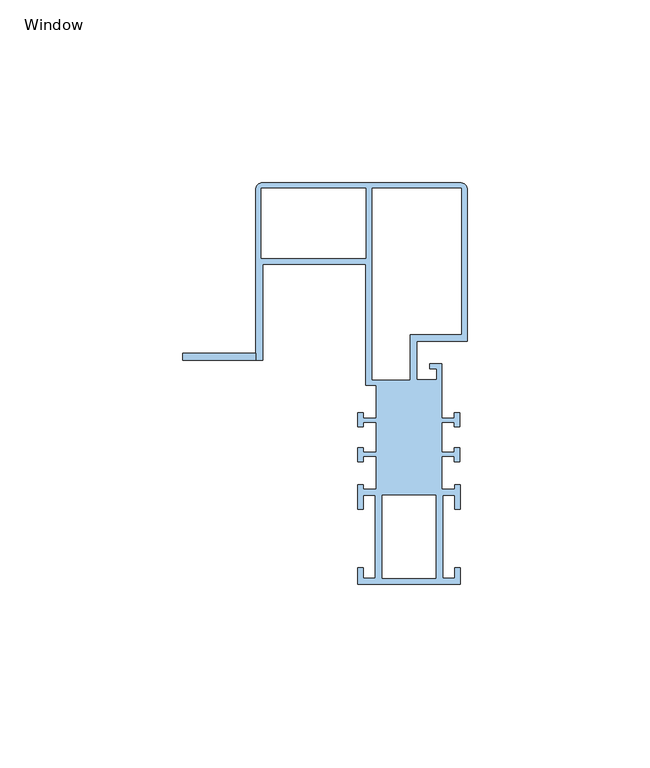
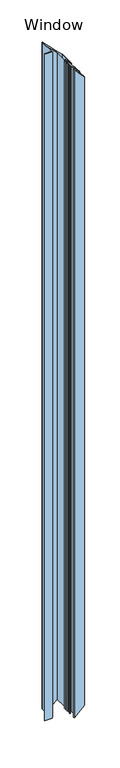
"""IFC4 building model written with IfcOpenShell, lengths in millimetres: window geometry, QO-H-QBISS_Window Module : Window."""

from ifc_helpers import new_model, si_unit, frame, origin, place, context, project, spatial, ellipse_curve, source, transform, mapped, element, save
from ifc_brep_helpers import plane_surface, cylinder_surface, advanced_brep


def window_884a3d52(model_context):
    return source(origin(), model_context, "Body", "AdvancedBrep", [
        advanced_brep(
        [(-1006.7490836, -48.7, -4.0), (-1006.7490836, -46.7, -4.0), (-986.7500002, -46.7, -4.0), (-986.7500002, -48.7, -4.0), (-1006.7490836, -48.7, 1973.0), (-1006.7490836, -46.7, 1973.0), (-986.7500002, -46.7, 1973.0), (-986.7500002, -2.0, -4.0), (-984.7500002, 0.0, -2.0), (-930.7500002, 0.0, 52.0), (-928.7500002, -2.0, 54.0), (-928.7500002, -43.5, 54.0), (-942.5500002, -43.5, 40.2), (-942.5500002, -54.0, 40.2), (-937.1500002, -54.0, 45.6), (-937.1500002, -51.0, 45.6), (-939.0500002, -51.0, 43.7), (-939.0500002, -49.6, 43.7), (-935.7500002, -49.6, 47.0), (-935.7500002, -64.5037405, 47.0), (-932.3013135, -64.5037405, 50.4486867), (-932.3013135, -63.0037405, 50.4486867), (-930.8013135, -63.0037405, 51.9486867), (-930.8013135, -66.9037405, 51.9486867), (-932.3013135, -66.9037405, 50.4486867), (-932.3013135, -65.7037405, 50.4486867), (-935.8013135, -65.7037405, 46.9486867), (-935.8013135, -73.8037405, 46.9486867), (-932.3013135, -73.8037405, 50.4486867), (-932.3013135, -72.6037405, 50.4486867), (-930.8013135, -72.6037405, 51.9486867), (-930.8013135, -76.5037405, 51.9486867), (-932.3013135, -76.5037405, 50.4486867), (-932.3013135, -75.0037405, 50.4486867), (-935.8013141, -75.0037405, 46.9486861), (-935.8013141, -84.0037561, 46.9486861), (-932.2518297, -84.0037561, 50.4981705), (-932.2518297, -82.8037561, 50.4981705), (-930.7518297, -82.8037561, 51.9981705), (-930.7518297, -89.5037561, 51.9981705), (-932.2518297, -89.5037561, 50.4981705), (-932.2518297, -85.7037561, 50.4981705), (-935.5518297, -85.7037561, 47.1981705), (-935.5518297, -108.3037561, 47.1981705), (-932.2518297, -108.3037561, 50.4981705), (-932.2518297, -105.5037561, 50.4981705), (-930.7518297, -105.5037561, 51.9981705), (-930.7518297, -110.0037561, 51.9981705), (-958.7518297, -110.0037561, 23.9981705), (-958.7518297, -105.5037561, 23.9981705), (-957.2518297, -105.5037561, 25.4981705), (-957.2518297, -108.3037561, 25.4981705), (-953.9518297, -108.3037561, 28.7981705), (-953.9518297, -85.7037561, 28.7981705), (-957.2518297, -85.7037561, 25.4981705), (-957.2518297, -89.5037561, 25.4981705), (-958.7518297, -89.5037561, 23.9981705), (-958.7518297, -82.8037561, 23.9981705), (-957.2518297, -82.8037561, 25.4981705), (-957.2518297, -84.0037561, 25.4981705), (-953.7023453, -84.0037561, 29.0476548), (-953.7023453, -75.0037405, 29.0476548), (-957.2023459, -75.0037405, 25.5476542), (-957.2023459, -76.5037405, 25.5476542), (-958.7023459, -76.5037405, 24.0476542), (-958.7023459, -72.6037405, 24.0476542), (-957.2023459, -72.6037405, 25.5476542), (-957.2023459, -73.8037405, 25.5476542), (-953.7023459, -73.8037405, 29.0476542), (-953.7023459, -65.7037405, 29.0476542), (-957.2023459, -65.7037405, 25.5476542), (-957.2023459, -66.9037405, 25.5476542), (-958.7023459, -66.9037405, 24.0476542), (-958.7023459, -63.0037405, 24.0476542), (-957.2023459, -63.0037405, 25.5476542), (-957.2023459, -64.5037405, 25.5476542), (-953.7023461, -64.5037405, 29.0476541), (-953.7023461, -55.4999986, 29.0476541), (-956.5500002, -55.4999986, 26.2), (-956.5500002, -22.4, 26.2), (-984.7490836, -22.4, -1.9990835), (-984.7490836, -48.7, -1.9990835), (-956.5500002, -20.7, 26.2), (-956.5500002, -1.5, 26.2), (-985.2500002, -1.5, -2.5), (-985.2500002, -20.7, -2.5), (-944.5500002, -54.0, 38.2), (-944.5500002, -41.5, 38.2), (-930.4500002, -41.5, 52.3), (-930.4500002, -1.5, 52.3), (-954.8500002, -1.5, 27.9), (-954.8500002, -54.0, 27.9), (-952.0518297, -108.3037561, 30.6981705), (-937.4518297, -108.3037561, 45.2981705), (-937.4518297, -85.7037561, 45.2981705), (-952.0518297, -85.7037561, 30.6981705), (-984.7490836, -48.7, 1970.9990835), (-986.7500002, -48.7, 1973.0), (-953.7023453, -84.0037561, 1939.9523452), (-953.7023453, -75.0037405, 1939.9523452), (-957.2023459, -75.0037405, 1943.4523458), (-957.2518297, -84.0037561, 1943.5018295), (-957.2518297, -82.8037561, 1943.5018295), (-958.7518297, -82.8037561, 1945.0018295), (-958.7518297, -89.5037561, 1945.0018295), (-957.2518297, -89.5037561, 1943.5018295), (-957.2518297, -85.7037561, 1943.5018295), (-953.9518297, -85.7037561, 1940.2018295), (-953.9518297, -108.3037561, 1940.2018295), (-957.2518297, -108.3037561, 1943.5018295), (-957.2518297, -105.5037561, 1943.5018295), (-958.7518297, -105.5037561, 1945.0018295), (-958.7518297, -110.0037561, 1945.0018295), (-930.7518297, -110.0037561, 1917.0018295), (-930.7518297, -105.5037561, 1917.0018295), (-932.2518297, -105.5037561, 1918.5018295), (-932.2518297, -108.3037561, 1918.5018295), (-935.5518297, -108.3037561, 1921.8018295), (-935.5518297, -85.7037561, 1921.8018295), (-932.2518297, -85.7037561, 1918.5018295), (-932.2518297, -89.5037561, 1918.5018295), (-930.7518297, -89.5037561, 1917.0018295), (-930.7518297, -82.8037561, 1917.0018295), (-932.2518297, -82.8037561, 1918.5018295), (-932.2518297, -84.0037561, 1918.5018295), (-935.8013141, -84.0037561, 1922.0513139), (-935.8013141, -75.0037405, 1922.0513139), (-932.3013135, -75.0037405, 1918.5513133), (-932.3013135, -76.5037405, 1918.5513133), (-930.8013135, -76.5037405, 1917.0513133), (-930.8013135, -72.6037405, 1917.0513133), (-932.3013135, -72.6037405, 1918.5513133), (-932.3013135, -73.8037405, 1918.5513133), (-935.8013135, -73.8037405, 1922.0513133), (-935.8013135, -65.7037405, 1922.0513133), (-932.3013135, -65.7037405, 1918.5513133), (-932.3013135, -66.9037405, 1918.5513133), (-930.8013135, -66.9037405, 1917.0513133), (-930.8013135, -63.0037405, 1917.0513133), (-932.3013135, -63.0037405, 1918.5513133), (-932.3013135, -64.5037405, 1918.5513133), (-935.7500002, -64.5037405, 1922.0), (-935.7500002, -49.6, 1922.0), (-939.0500002, -49.6, 1925.3), (-939.0500002, -51.0, 1925.3), (-937.1500002, -51.0, 1923.4), (-937.1500002, -54.0, 1923.4), (-942.5500002, -54.0, 1928.8), (-942.5500002, -43.5, 1928.8), (-928.7500002, -43.5, 1915.0), (-928.7500002, -2.0, 1915.0), (-930.7500002, 0.0, 1917.0), (-984.7500002, 0.0, 1971.0), (-986.7500002, -2.0, 1973.0), (-984.7490836, -22.4, 1970.9990835), (-956.5500002, -22.4, 1942.8), (-956.5500002, -55.4999986, 1942.8), (-953.7023461, -55.4999986, 1939.9523459), (-953.7023461, -64.5037405, 1939.9523459), (-957.2023459, -64.5037405, 1943.4523458), (-957.2023459, -63.0037405, 1943.4523458), (-958.7023459, -63.0037405, 1944.9523458), (-958.7023459, -66.9037405, 1944.9523458), (-957.2023459, -66.9037405, 1943.4523458), (-957.2023459, -65.7037405, 1943.4523458), (-953.7023459, -65.7037405, 1939.9523458), (-953.7023459, -73.8037405, 1939.9523458), (-957.2023459, -73.8037405, 1943.4523458), (-957.2023459, -72.6037405, 1943.4523458), (-958.7023459, -72.6037405, 1944.9523458), (-958.7023459, -76.5037405, 1944.9523458), (-957.2023459, -76.5037405, 1943.4523458), (-956.5500002, -20.7, 1942.8), (-956.5500002, -1.5, 1942.8), (-985.2500002, -1.5, 1971.5), (-985.2500002, -20.7, 1971.5), (-944.5500002, -54.0, 1930.8), (-944.5500002, -41.5, 1930.8), (-930.4500002, -41.5, 1916.7), (-954.8500002, -54.0, 1941.1), (-954.8500002, -1.5, 1941.1), (-930.4500002, -1.5, 1916.7), (-952.0518297, -108.3037561, 1938.3018295), (-937.4518297, -108.3037561, 1923.7018295), (-937.4518297, -85.7037561, 1923.7018295), (-952.0518297, -85.7037561, 1938.3018295)],
        [
            (0, 1),
            (1, 2),
            (2, 3),
            (3, 0),
            (4, 5),
            (5, 1),
            (0, 4),
            (5, 6),
            (6, 2),
            (2, 7),
            (7, 8, ellipse_curve(frame((-984.7500002, -2.0, -2.0), z_axis=(0.7071067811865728, 0.0, -0.7071067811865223), x_axis=(0.7071067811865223, 0.0, 0.7071067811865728)), 2.8284271, 2.0)),
            (8, 9),
            (9, 10, ellipse_curve(frame((-930.7500002, -2.0, 52.0), z_axis=(0.7071067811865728, 0.0, -0.7071067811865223), x_axis=(0.7071067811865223, 0.0, 0.7071067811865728)), 2.8284271, 2.0)),
            (10, 11),
            (11, 12),
            (12, 13),
            (13, 14),
            (14, 15),
            (15, 16),
            (16, 17),
            (17, 18),
            (18, 19),
            (19, 20),
            (20, 21),
            (21, 22),
            (22, 23),
            (23, 24),
            (24, 25),
            (25, 26),
            (26, 27),
            (27, 28),
            (28, 29),
            (29, 30),
            (30, 31),
            (31, 32),
            (32, 33),
            (33, 34),
            (34, 35),
            (35, 36),
            (36, 37),
            (37, 38),
            (38, 39),
            (39, 40),
            (40, 41),
            (41, 42),
            (42, 43),
            (43, 44),
            (44, 45),
            (45, 46),
            (46, 47),
            (47, 48),
            (48, 49),
            (49, 50),
            (50, 51),
            (51, 52),
            (52, 53),
            (53, 54),
            (54, 55),
            (55, 56),
            (56, 57),
            (57, 58),
            (58, 59),
            (59, 60),
            (60, 61),
            (61, 62),
            (62, 63),
            (63, 64),
            (64, 65),
            (65, 66),
            (66, 67),
            (67, 68),
            (68, 69),
            (69, 70),
            (70, 71),
            (71, 72),
            (72, 73),
            (73, 74),
            (74, 75),
            (75, 76),
            (76, 77),
            (77, 78),
            (78, 79),
            (79, 80),
            (80, 81),
            (81, 3),
            (82, 83),
            (83, 84),
            (84, 85),
            (85, 82),
            (86, 87),
            (87, 88),
            (88, 89),
            (89, 90),
            (90, 91),
            (91, 86),
            (92, 93),
            (93, 94),
            (94, 95),
            (95, 92),
            (81, 96),
            (96, 97),
            (97, 4),
            (98, 99),
            (99, 61),
            (60, 98),
            (99, 100),
            (100, 62),
            (101, 98),
            (59, 101),
            (102, 101),
            (58, 102),
            (103, 102),
            (57, 103),
            (104, 103),
            (56, 104),
            (105, 104),
            (55, 105),
            (106, 105),
            (54, 106),
            (107, 106),
            (53, 107),
            (108, 107),
            (52, 108),
            (109, 108),
            (51, 109),
            (110, 109),
            (50, 110),
            (111, 110),
            (49, 111),
            (112, 111),
            (48, 112),
            (113, 112),
            (47, 113),
            (114, 113),
            (46, 114),
            (115, 114),
            (45, 115),
            (116, 115),
            (44, 116),
            (117, 116),
            (43, 117),
            (118, 117),
            (42, 118),
            (119, 118),
            (41, 119),
            (120, 119),
            (40, 120),
            (121, 120),
            (39, 121),
            (122, 121),
            (38, 122),
            (123, 122),
            (37, 123),
            (124, 123),
            (36, 124),
            (125, 124),
            (35, 125),
            (126, 125),
            (34, 126),
            (127, 126),
            (33, 127),
            (128, 127),
            (32, 128),
            (129, 128),
            (31, 129),
            (130, 129),
            (30, 130),
            (131, 130),
            (29, 131),
            (132, 131),
            (28, 132),
            (133, 132),
            (27, 133),
            (134, 133),
            (26, 134),
            (135, 134),
            (25, 135),
            (136, 135),
            (24, 136),
            (137, 136),
            (23, 137),
            (138, 137),
            (22, 138),
            (139, 138),
            (21, 139),
            (140, 139),
            (20, 140),
            (141, 140),
            (19, 141),
            (142, 141),
            (18, 142),
            (143, 142),
            (17, 143),
            (144, 143),
            (16, 144),
            (145, 144),
            (15, 145),
            (146, 145),
            (14, 146),
            (147, 146),
            (13, 147),
            (148, 147),
            (12, 148),
            (149, 148),
            (11, 149),
            (150, 149),
            (10, 150),
            (151, 150, ellipse_curve(frame((-930.7500002, -2.0, 1917.0), z_axis=(-0.7071067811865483, 0.0, -0.7071067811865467), x_axis=(-0.7071067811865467, 0.0, 0.7071067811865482)), 2.8284271, 2.0)),
            (9, 151),
            (152, 151),
            (8, 152),
            (7, 153),
            (153, 152, ellipse_curve(frame((-984.7500002, -2.0, 1971.0), z_axis=(-0.7071067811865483, 0.0, -0.7071067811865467), x_axis=(-0.7071067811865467, 0.0, 0.7071067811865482)), 2.8284271, 2.0)),
            (6, 153),
            (154, 96),
            (80, 154),
            (155, 154),
            (79, 155),
            (156, 155),
            (78, 156),
            (157, 156),
            (77, 157),
            (158, 157),
            (76, 158),
            (159, 158),
            (75, 159),
            (160, 159),
            (74, 160),
            (161, 160),
            (73, 161),
            (162, 161),
            (72, 162),
            (163, 162),
            (71, 163),
            (164, 163),
            (70, 164),
            (165, 164),
            (69, 165),
            (166, 165),
            (68, 166),
            (167, 166),
            (67, 167),
            (168, 167),
            (66, 168),
            (169, 168),
            (65, 169),
            (170, 169),
            (64, 170),
            (171, 170),
            (63, 171),
            (100, 171),
            (172, 173),
            (173, 83),
            (82, 172),
            (173, 174),
            (174, 84),
            (175, 172),
            (85, 175),
            (174, 175),
            (176, 177),
            (177, 87),
            (86, 176),
            (177, 178),
            (178, 88),
            (179, 176),
            (91, 179),
            (180, 179),
            (90, 180),
            (181, 180),
            (89, 181),
            (178, 181),
            (182, 183),
            (183, 93),
            (92, 182),
            (183, 184),
            (184, 94),
            (185, 182),
            (95, 185),
            (184, 185),
            (97, 6),
        ],
        [
            plane_surface(frame((-999.2500002, 0.0, -4.0), z_axis=(0.0, 0.0, -1.0), x_axis=(0.0, -1.0, 0.0))),
            plane_surface(frame((-1006.7490836, -46.7, 1973.0), z_axis=(-1.0, 0.0, 0.0), x_axis=(0.0, 0.0, -1.0))),
            plane_surface(frame((-986.7500002, -46.7, 1973.0), z_axis=(0.0, 1.0, 0.0), x_axis=(0.0, 0.0, -1.0))),
            plane_surface(frame((-928.7500002, -180.0, 54.0), z_axis=(0.7071067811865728, 0.0, -0.7071067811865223), x_axis=(0.0, 1.0, 0.0))),
            plane_surface(frame((-1006.7490836, -48.7, 1973.0), z_axis=(0.0, -1.0, 0.0), x_axis=(0.0, 0.0, -1.0))),
            plane_surface(frame((-953.7023453, -75.0037405, 1973.0), z_axis=(-1.0, 0.0, 0.0), x_axis=(0.0, 0.0, -1.0))),
            plane_surface(frame((-957.2023459, -75.0037405, 1973.0), z_axis=(0.0, -1.0, 0.0), x_axis=(0.0, 0.0, -1.0))),
            plane_surface(frame((-953.7023453, -84.0037561, 1973.0), z_axis=(0.0, 1.0, 0.0), x_axis=(0.0, 0.0, -1.0))),
            plane_surface(frame((-957.2518297, -84.0037561, 1973.0), z_axis=(1.0, 0.0, 0.0), x_axis=(0.0, 0.0, -1.0))),
            plane_surface(frame((-957.2518297, -82.8037561, 1973.0), z_axis=(0.0, 1.0, 0.0), x_axis=(0.0, 0.0, -1.0))),
            plane_surface(frame((-958.7518297, -82.8037561, 1973.0), z_axis=(-1.0, 0.0, 0.0), x_axis=(0.0, 0.0, -1.0))),
            plane_surface(frame((-958.7518297, -89.5037561, 1973.0), z_axis=(0.0, -1.0, 0.0), x_axis=(0.0, 0.0, -1.0))),
            plane_surface(frame((-957.2518297, -89.5037561, 1973.0), z_axis=(1.0, 0.0, 0.0), x_axis=(0.0, 0.0, -1.0))),
            plane_surface(frame((-957.2518297, -85.7037561, 1973.0), z_axis=(0.0, -1.0, 0.0), x_axis=(0.0, 0.0, -1.0))),
            plane_surface(frame((-953.9518297, -85.7037561, 1973.0), z_axis=(-1.0, 0.0, 0.0), x_axis=(0.0, 0.0, -1.0))),
            plane_surface(frame((-953.9518297, -108.3037561, 1973.0), z_axis=(0.0, 1.0, 0.0), x_axis=(0.0, 0.0, -1.0))),
            plane_surface(frame((-957.2518297, -108.3037561, 1973.0), z_axis=(1.0, 0.0, 0.0), x_axis=(0.0, 0.0, -1.0))),
            plane_surface(frame((-957.2518297, -105.5037561, 1973.0), z_axis=(0.0, 1.0, 0.0), x_axis=(0.0, 0.0, -1.0))),
            plane_surface(frame((-958.7518297, -105.5037561, 1973.0), z_axis=(-1.0, 0.0, 0.0), x_axis=(0.0, 0.0, -1.0))),
            plane_surface(frame((-958.7518297, -110.0037561, 1973.0), z_axis=(0.0, -1.0, 0.0), x_axis=(0.0, 0.0, -1.0))),
            plane_surface(frame((-930.7518297, -110.0037561, 1973.0), z_axis=(1.0, 0.0, 0.0), x_axis=(0.0, 0.0, -1.0))),
            plane_surface(frame((-930.7518297, -105.5037561, 1973.0), z_axis=(0.0, 1.0, 0.0), x_axis=(0.0, 0.0, -1.0))),
            plane_surface(frame((-932.2518297, -105.5037561, 1973.0), z_axis=(-1.0, 0.0, 0.0), x_axis=(0.0, 0.0, -1.0))),
            plane_surface(frame((-932.2518297, -108.3037561, 1973.0), z_axis=(0.0, 1.0, 0.0), x_axis=(0.0, 0.0, -1.0))),
            plane_surface(frame((-935.5518297, -108.3037561, 1973.0), z_axis=(1.0, 0.0, 0.0), x_axis=(0.0, 0.0, -1.0))),
            plane_surface(frame((-935.5518297, -85.7037561, 1973.0), z_axis=(0.0, -1.0, 0.0), x_axis=(0.0, 0.0, -1.0))),
            plane_surface(frame((-932.2518297, -85.7037561, 1973.0), z_axis=(-1.0, 0.0, 0.0), x_axis=(0.0, 0.0, -1.0))),
            plane_surface(frame((-932.2518297, -89.5037561, 1973.0), z_axis=(0.0, -1.0, 0.0), x_axis=(0.0, 0.0, -1.0))),
            plane_surface(frame((-930.7518297, -89.5037561, 1973.0), z_axis=(1.0, 0.0, 0.0), x_axis=(0.0, 0.0, -1.0))),
            plane_surface(frame((-930.7518297, -82.8037561, 1973.0), z_axis=(0.0, 1.0, 0.0), x_axis=(0.0, 0.0, -1.0))),
            plane_surface(frame((-932.2518297, -82.8037561, 1973.0), z_axis=(-1.0, 0.0, 0.0), x_axis=(0.0, 0.0, -1.0))),
            plane_surface(frame((-932.2518297, -84.0037561, 1973.0), z_axis=(0.0, 1.0, 0.0), x_axis=(0.0, 0.0, -1.0))),
            plane_surface(frame((-935.8013141, -84.0037561, 1973.0), z_axis=(1.0, 0.0, 0.0), x_axis=(0.0, 0.0, -1.0))),
            plane_surface(frame((-935.8013141, -75.0037405, 1973.0), z_axis=(0.0, -1.0, 0.0), x_axis=(0.0, 0.0, -1.0))),
            plane_surface(frame((-932.3013135, -75.0037405, 1973.0), z_axis=(-1.0, 0.0, 0.0), x_axis=(0.0, 0.0, -1.0))),
            plane_surface(frame((-932.3013135, -76.5037405, 1973.0), z_axis=(0.0, -1.0, 0.0), x_axis=(0.0, 0.0, -1.0))),
            plane_surface(frame((-930.8013135, -76.5037405, 1973.0), z_axis=(1.0, 0.0, 0.0), x_axis=(0.0, 0.0, -1.0))),
            plane_surface(frame((-930.8013135, -72.6037405, 1973.0), z_axis=(0.0, 1.0, 0.0), x_axis=(0.0, 0.0, -1.0))),
            plane_surface(frame((-932.3013135, -72.6037405, 1973.0), z_axis=(-1.0, 0.0, 0.0), x_axis=(0.0, 0.0, -1.0))),
            plane_surface(frame((-932.3013135, -73.8037405, 1973.0), z_axis=(0.0, 1.0, 0.0), x_axis=(0.0, 0.0, -1.0))),
            plane_surface(frame((-935.8013135, -73.8037405, 1973.0), z_axis=(1.0, 0.0, 0.0), x_axis=(0.0, 0.0, -1.0))),
            plane_surface(frame((-935.8013135, -65.7037405, 1973.0), z_axis=(0.0, -1.0, 0.0), x_axis=(0.0, 0.0, -1.0))),
            plane_surface(frame((-932.3013135, -65.7037405, 1973.0), z_axis=(-1.0, 0.0, 0.0), x_axis=(0.0, 0.0, -1.0))),
            plane_surface(frame((-932.3013135, -66.9037405, 1973.0), z_axis=(0.0, -1.0, 0.0), x_axis=(0.0, 0.0, -1.0))),
            plane_surface(frame((-930.8013135, -66.9037405, 1973.0), z_axis=(1.0, 0.0, 0.0), x_axis=(0.0, 0.0, -1.0))),
            plane_surface(frame((-930.8013135, -63.0037405, 1973.0), z_axis=(0.0, 1.0, 0.0), x_axis=(0.0, 0.0, -1.0))),
            plane_surface(frame((-932.3013135, -63.0037405, 1973.0), z_axis=(-1.0, 0.0, 0.0), x_axis=(0.0, 0.0, -1.0))),
            plane_surface(frame((-932.3013135, -64.5037405, 1973.0), z_axis=(0.0, 1.0, 0.0), x_axis=(0.0, 0.0, -1.0))),
            plane_surface(frame((-935.7500002, -64.5037405, 1973.0), z_axis=(1.0, 0.0, 0.0), x_axis=(0.0, 0.0, -1.0))),
            plane_surface(frame((-935.7500002, -49.6, 1973.0), z_axis=(0.0, 1.0, 0.0), x_axis=(0.0, 0.0, -1.0))),
            plane_surface(frame((-939.0500002, -49.6, 1973.0), z_axis=(-1.0, 0.0, 0.0), x_axis=(0.0, 0.0, -1.0))),
            plane_surface(frame((-939.0500002, -51.0, 1973.0), z_axis=(0.0, -1.0, 0.0), x_axis=(0.0, 0.0, -1.0))),
            plane_surface(frame((-937.1500002, -51.0, 1973.0), z_axis=(-1.0, 0.0, 0.0), x_axis=(0.0, 0.0, -1.0))),
            plane_surface(frame((-937.1500002, -54.0, 1973.0), z_axis=(0.0, 1.0, 0.0), x_axis=(0.0, 0.0, -1.0))),
            plane_surface(frame((-942.5500002, -54.0, 1973.0), z_axis=(1.0, 0.0, 0.0), x_axis=(0.0, 0.0, -1.0))),
            plane_surface(frame((-942.5500002, -43.5, 1973.0), z_axis=(0.0, -1.0, 0.0), x_axis=(0.0, 0.0, -1.0))),
            plane_surface(frame((-928.7500002, -43.5, 1973.0), z_axis=(1.0, 0.0, 0.0), x_axis=(0.0, 0.0, -1.0))),
            cylinder_surface(frame((-930.7500002, -2.0, 1973.0), z_axis=(0.0, 0.0, 1.0), x_axis=(0.0, -1.0, 0.0)), 2.0),
            plane_surface(frame((-930.7500002, 0.0, 1973.0), z_axis=(0.0, 1.0, 0.0), x_axis=(0.0, 0.0, -1.0))),
            cylinder_surface(frame((-984.7500002, -2.0, 1973.0), z_axis=(0.0, 0.0, 1.0), x_axis=(0.0, -1.0, 0.0)), 2.0),
            plane_surface(frame((-986.7500002, -2.0, 1973.0), z_axis=(-1.0, 0.0, 0.0), x_axis=(0.0, 0.0, -1.0))),
            plane_surface(frame((-984.7490836, -48.7, 1973.0), z_axis=(1.0, 0.0, 0.0), x_axis=(0.0, 0.0, -1.0))),
            plane_surface(frame((-984.7490836, -22.4, 1973.0), z_axis=(0.0, -1.0, 0.0), x_axis=(0.0, 0.0, -1.0))),
            plane_surface(frame((-956.5500002, -22.4, 1973.0), z_axis=(-1.0, 0.0, 0.0), x_axis=(0.0, 0.0, -1.0))),
            plane_surface(frame((-956.5500002, -55.4999986, 1973.0), z_axis=(0.0, -1.0, 0.0), x_axis=(0.0, 0.0, -1.0))),
            plane_surface(frame((-953.7023461, -55.4999986, 1973.0), z_axis=(-1.0, 0.0, 0.0), x_axis=(0.0, 0.0, -1.0))),
            plane_surface(frame((-953.7023461, -64.5037405, 1973.0), z_axis=(0.0, 1.0, 0.0), x_axis=(0.0, 0.0, -1.0))),
            plane_surface(frame((-957.2023459, -64.5037405, 1973.0), z_axis=(1.0, 0.0, 0.0), x_axis=(0.0, 0.0, -1.0))),
            plane_surface(frame((-957.2023459, -63.0037405, 1973.0), z_axis=(0.0, 1.0, 0.0), x_axis=(0.0, 0.0, -1.0))),
            plane_surface(frame((-958.7023459, -63.0037405, 1973.0), z_axis=(-1.0, 0.0, 0.0), x_axis=(0.0, 0.0, -1.0))),
            plane_surface(frame((-958.7023459, -66.9037405, 1973.0), z_axis=(0.0, -1.0, 0.0), x_axis=(0.0, 0.0, -1.0))),
            plane_surface(frame((-957.2023459, -66.9037405, 1973.0), z_axis=(1.0, 0.0, 0.0), x_axis=(0.0, 0.0, -1.0))),
            plane_surface(frame((-957.2023459, -65.7037405, 1973.0), z_axis=(0.0, -1.0, 0.0), x_axis=(0.0, 0.0, -1.0))),
            plane_surface(frame((-953.7023459, -65.7037405, 1973.0), z_axis=(-1.0, 0.0, 0.0), x_axis=(0.0, 0.0, -1.0))),
            plane_surface(frame((-953.7023459, -73.8037405, 1973.0), z_axis=(0.0, 1.0, 0.0), x_axis=(0.0, 0.0, -1.0))),
            plane_surface(frame((-957.2023459, -73.8037405, 1973.0), z_axis=(1.0, 0.0, 0.0), x_axis=(0.0, 0.0, -1.0))),
            plane_surface(frame((-957.2023459, -72.6037405, 1973.0), z_axis=(0.0, 1.0, 0.0), x_axis=(0.0, 0.0, -1.0))),
            plane_surface(frame((-958.7023459, -72.6037405, 1973.0), z_axis=(-1.0, 0.0, 0.0), x_axis=(0.0, 0.0, -1.0))),
            plane_surface(frame((-958.7023459, -76.5037405, 1973.0), z_axis=(0.0, -1.0, 0.0), x_axis=(0.0, 0.0, -1.0))),
            plane_surface(frame((-957.2023459, -76.5037405, 1973.0), z_axis=(1.0, 0.0, 0.0), x_axis=(0.0, 0.0, -1.0))),
            plane_surface(frame((-956.5500002, -1.5, 1973.0), z_axis=(-1.0, 0.0, 0.0), x_axis=(0.0, 0.0, -1.0))),
            plane_surface(frame((-985.2500002, -1.5, 1973.0), z_axis=(0.0, -1.0, 0.0), x_axis=(0.0, 0.0, -1.0))),
            plane_surface(frame((-956.5500002, -20.7, 1973.0), z_axis=(0.0, 1.0, 0.0), x_axis=(0.0, 0.0, -1.0))),
            plane_surface(frame((-985.2500002, -20.7, 1973.0), z_axis=(1.0, 0.0, 0.0), x_axis=(0.0, 0.0, -1.0))),
            plane_surface(frame((-944.5500002, -41.5, 1973.0), z_axis=(-1.0, 0.0, 0.0), x_axis=(0.0, 0.0, -1.0))),
            plane_surface(frame((-930.4500002, -41.5, 1973.0), z_axis=(0.0, 1.0, 0.0), x_axis=(0.0, 0.0, -1.0))),
            plane_surface(frame((-944.5500002, -54.0, 1973.0), z_axis=(0.0, 1.0, 0.0), x_axis=(0.0, 0.0, -1.0))),
            plane_surface(frame((-954.8500002, -54.0, 1973.0), z_axis=(1.0, 0.0, 0.0), x_axis=(0.0, 0.0, -1.0))),
            plane_surface(frame((-954.8500002, -1.5, 1973.0), z_axis=(0.0, -1.0, 0.0), x_axis=(0.0, 0.0, -1.0))),
            plane_surface(frame((-930.4500002, -1.5, 1973.0), z_axis=(-1.0, 0.0, 0.0), x_axis=(0.0, 0.0, -1.0))),
            plane_surface(frame((-937.4518297, -108.3037561, 1973.0), z_axis=(0.0, 1.0, 0.0), x_axis=(0.0, 0.0, -1.0))),
            plane_surface(frame((-937.4518297, -85.7037561, 1973.0), z_axis=(-1.0, 0.0, 0.0), x_axis=(0.0, 0.0, -1.0))),
            plane_surface(frame((-952.0518297, -108.3037561, 1973.0), z_axis=(1.0, 0.0, 0.0), x_axis=(0.0, 0.0, -1.0))),
            plane_surface(frame((-952.0518297, -85.7037561, 1973.0), z_axis=(0.0, -1.0, 0.0), x_axis=(0.0, 0.0, -1.0))),
            plane_surface(frame((-999.2500002, 0.0, 1973.0), z_axis=(0.0, 0.0, 1.0), x_axis=(0.0, -1.0, 0.0))),
            plane_surface(frame((-986.7500002, -120.0, 1973.0), z_axis=(0.7071067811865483, 0.0, 0.7071067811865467), x_axis=(0.0, 1.0, 0.0))),
        ],
        [
            (0, [[1, 2, 3, 4]]),
            (1, [[5, 6, -1, 7]]),
            (2, [[8, 9, -2, -6]]),
            (3, [[-3, 10, 11, 12, 13, 14, 15, 16, 17, 18, 19, 20, 21, 22, 23, 24, 25, 26, 27, 28, 29, 30, 31, 32, 33, 34, 35, 36, 37, 38, 39, 40, 41, 42, 43, 44, 45, 46, 47, 48, 49, 50, 51, 52, 53, 54, 55, 56, 57, 58, 59, 60, 61, 62, 63, 64, 65, 66, 67, 68, 69, 70, 71, 72, 73, 74, 75, 76, 77, 78, 79, 80, 81, 82, 83, 84, 85], [86, 87, 88, 89], [90, 91, 92, 93, 94, 95], [96, 97, 98, 99]]),
            (4, [[-7, -4, -85, 100, 101, 102]]),
            (5, [[103, 104, -64, 105]]),
            (6, [[106, 107, -65, -104]]),
            (7, [[108, -105, -63, 109]]),
            (8, [[110, -109, -62, 111]]),
            (9, [[112, -111, -61, 113]]),
            (10, [[114, -113, -60, 115]]),
            (11, [[116, -115, -59, 117]]),
            (12, [[118, -117, -58, 119]]),
            (13, [[120, -119, -57, 121]]),
            (14, [[122, -121, -56, 123]]),
            (15, [[124, -123, -55, 125]]),
            (16, [[126, -125, -54, 127]]),
            (17, [[128, -127, -53, 129]]),
            (18, [[130, -129, -52, 131]]),
            (19, [[132, -131, -51, 133]]),
            (20, [[134, -133, -50, 135]]),
            (21, [[136, -135, -49, 137]]),
            (22, [[138, -137, -48, 139]]),
            (23, [[140, -139, -47, 141]]),
            (24, [[142, -141, -46, 143]]),
            (25, [[144, -143, -45, 145]]),
            (26, [[146, -145, -44, 147]]),
            (27, [[148, -147, -43, 149]]),
            (28, [[150, -149, -42, 151]]),
            (29, [[152, -151, -41, 153]]),
            (30, [[154, -153, -40, 155]]),
            (31, [[156, -155, -39, 157]]),
            (32, [[158, -157, -38, 159]]),
            (33, [[160, -159, -37, 161]]),
            (34, [[162, -161, -36, 163]]),
            (35, [[164, -163, -35, 165]]),
            (36, [[166, -165, -34, 167]]),
            (37, [[168, -167, -33, 169]]),
            (38, [[170, -169, -32, 171]]),
            (39, [[172, -171, -31, 173]]),
            (40, [[174, -173, -30, 175]]),
            (41, [[176, -175, -29, 177]]),
            (42, [[178, -177, -28, 179]]),
            (43, [[180, -179, -27, 181]]),
            (44, [[182, -181, -26, 183]]),
            (45, [[184, -183, -25, 185]]),
            (46, [[186, -185, -24, 187]]),
            (47, [[188, -187, -23, 189]]),
            (48, [[190, -189, -22, 191]]),
            (49, [[192, -191, -21, 193]]),
            (50, [[194, -193, -20, 195]]),
            (51, [[196, -195, -19, 197]]),
            (52, [[198, -197, -18, 199]]),
            (53, [[200, -199, -17, 201]]),
            (54, [[202, -201, -16, 203]]),
            (55, [[204, -203, -15, 205]]),
            (56, [[206, -205, -14, 207]]),
            (57, [[208, -207, -13, 209]]),
            (58, [[210, -209, -12, 211]]),
            (59, [[212, 213, -211, -11]]),
            (60, [[-212, -10, -9, 214]]),
            (61, [[215, -100, -84, 216]]),
            (62, [[217, -216, -83, 218]]),
            (63, [[219, -218, -82, 220]]),
            (64, [[221, -220, -81, 222]]),
            (65, [[223, -222, -80, 224]]),
            (66, [[225, -224, -79, 226]]),
            (67, [[227, -226, -78, 228]]),
            (68, [[229, -228, -77, 230]]),
            (69, [[231, -230, -76, 232]]),
            (70, [[233, -232, -75, 234]]),
            (71, [[235, -234, -74, 236]]),
            (72, [[237, -236, -73, 238]]),
            (73, [[239, -238, -72, 240]]),
            (74, [[241, -240, -71, 242]]),
            (75, [[243, -242, -70, 244]]),
            (76, [[245, -244, -69, 246]]),
            (77, [[247, -246, -68, 248]]),
            (78, [[249, -248, -67, 250]]),
            (79, [[251, -250, -66, -107]]),
            (80, [[252, 253, -86, 254]]),
            (81, [[255, 256, -87, -253]]),
            (82, [[257, -254, -89, 258]]),
            (83, [[259, -258, -88, -256]]),
            (84, [[260, 261, -90, 262]]),
            (85, [[263, 264, -91, -261]]),
            (86, [[265, -262, -95, 266]]),
            (87, [[267, -266, -94, 268]]),
            (88, [[269, -268, -93, 270]]),
            (89, [[271, -270, -92, -264]]),
            (90, [[272, 273, -96, 274]]),
            (91, [[275, 276, -97, -273]]),
            (92, [[277, -274, -99, 278]]),
            (93, [[279, -278, -98, -276]]),
            (94, [[-8, -5, -102, 280]]),
            (95, [[-280, -101, -215, -217, -219, -221, -223, -225, -227, -229, -231, -233, -235, -237, -239, -241, -243, -245, -247, -249, -251, -106, -103, -108, -110, -112, -114, -116, -118, -120, -122, -124, -126, -128, -130, -132, -134, -136, -138, -140, -142, -144, -146, -148, -150, -152, -154, -156, -158, -160, -162, -164, -166, -168, -170, -172, -174, -176, -178, -180, -182, -184, -186, -188, -190, -192, -194, -196, -198, -200, -202, -204, -206, -208, -210, -213, -214], [-252, -257, -259, -255], [-260, -265, -267, -269, -271, -263], [-272, -277, -279, -275]]),
        ],
    ),
    ])


if __name__ == "__main__":
    model = new_model("IFC4")
    model_context = context("Model", 3, world=origin())
    ifc_project = project(units=[si_unit("LENGTHUNIT", "METRE", prefix="MILLI")], contexts=[model_context])
    site = spatial("IfcSite", under=ifc_project)
    building = spatial("IfcBuilding", under=site)
    placement = place(None, origin())
    window_shape = window_884a3d52(model_context)
    element("IfcWindow", 1, ObjectType="QO-H-QBISS_Window Module : Window", at=placement, inside=building, context=model_context, shape_type="MappedRepresentation", body=[
        mapped(window_shape, transform((0.0, 0.0, 0.0), x_axis=(1.0, 0.0, 0.0), y_axis=(0.0, 1.0, 0.0), z_axis=(0.0, 0.0, 1.0))),
    ])
    save(model, "model.ifc")
